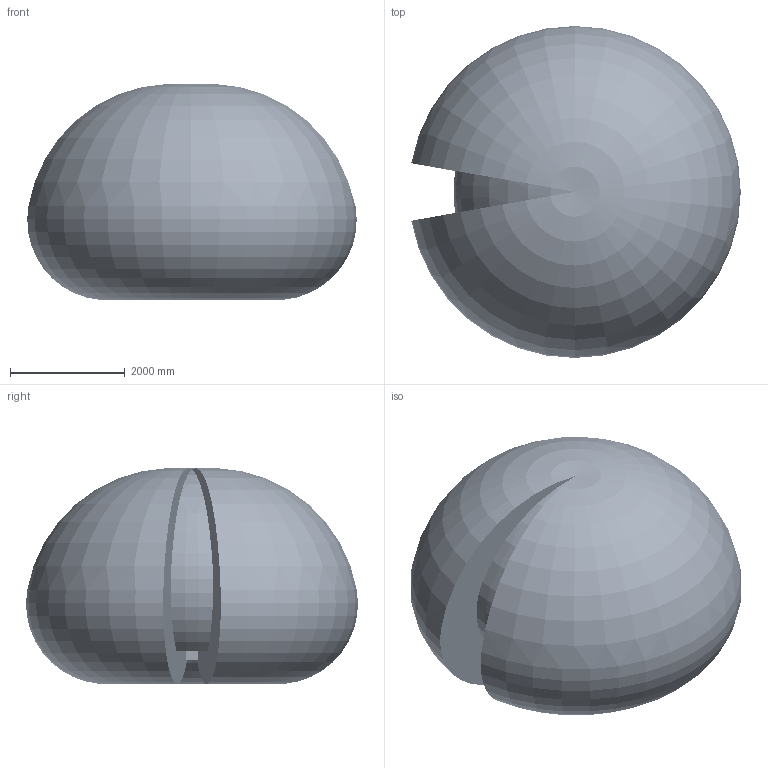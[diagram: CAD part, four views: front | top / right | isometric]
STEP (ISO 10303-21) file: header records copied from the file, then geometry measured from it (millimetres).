
FILE_DESCRIPTION (( 'STEP AP214' ), '1' );
FILE_NAME ('IRB6730-LID-MH_220kg-290_OC_01_ASM_CAD.step', '2026-05-26T09:09:14', ( '' ), ( '' ), 'SwSTEP 2.0', 'SolidWorks 2024', '' );
FILE_SCHEMA (( 'AUTOMOTIVE_DESIGN' ));
Length unit declared in the file: millimetre
Products named in the file (20): IRB6730-LID_220kg-290_OC_00_LINK04_CAD; IRB6730-LID_220kg-290_OC_00_LINK03_CAD; IRB6730-LID_220kg-290_OC_00_LINK01m_CABLE; IRB6730-LID_220kg-290_OC_00_LINK03m_CABLE; IRB6730-LID_220kg-290_OC_00_LINK01_CAD; IRB6730-LID-MH_220kg-290_OC_00_LINK02_CABLE; IRB6730-LID-MH_220kg-290_OC_00_LINK03b_CABLE; IRB6730-LID_220kg-290_OC_00_LINK02m_CABLE; IRB6730-LID_220kg-290_OC_00_Working-space; IRB6730-LID_220kg-290_OC_01_LINK05_CAD; IRB6730-LID_220kg-290_OC_00_ROD_CAD; IRB6730-LID_220kg-290_OC_00_BASE_CAD; IRB6730-LID-MH_220kg-290_OC_00_LINK03a_CABLE; IRB6730-LID_220kg-290_OC_00_LINK04_CABLE; IRB6730-LID_220kg-290_OC_00_LINK05_CABLE; IRB6730-LID-MH_220kg-290_OC_00_LINK01_CABLE; IRB6730-LID_220kg-290_OC_00_LINK06_CABLE; IRB6730-LID-MH_220kg-290_OC_01_ASM_CAD; IRB6730-LID_220kg-290_OC_00_LINK02_CAD; IRB6730-LID_220kg-290_OC_00_CYL_CAD
Assembly tree (19 placements, depth 2):
  IRB6730-LID-MH_220kg-290_OC_01_ASM_CAD
    IRB6730-LID_220kg-290_OC_00_BASE_CAD
    IRB6730-LID_220kg-290_OC_00_CYL_CAD
    IRB6730-LID_220kg-290_OC_00_LINK01_CAD
    IRB6730-LID_220kg-290_OC_00_LINK02_CAD
    IRB6730-LID_220kg-290_OC_00_LINK03_CAD
    IRB6730-LID_220kg-290_OC_00_LINK04_CAD
    IRB6730-LID_220kg-290_OC_01_LINK05_CAD
    IRB6730-LID_220kg-290_OC_00_ROD_CAD
    IRB6730-LID_220kg-290_OC_00_LINK06_CABLE
    IRB6730-LID-MH_220kg-290_OC_00_LINK01_CABLE
    IRB6730-LID-MH_220kg-290_OC_00_LINK02_CABLE
    IRB6730-LID-MH_220kg-290_OC_00_LINK03a_CABLE
    IRB6730-LID-MH_220kg-290_OC_00_LINK03b_CABLE
    IRB6730-LID_220kg-290_OC_00_LINK04_CABLE
    IRB6730-LID_220kg-290_OC_00_LINK05_CABLE
    IRB6730-LID_220kg-290_OC_00_LINK01m_CABLE
    IRB6730-LID_220kg-290_OC_00_LINK02m_CABLE
    IRB6730-LID_220kg-290_OC_00_LINK03m_CABLE
    IRB6730-LID_220kg-290_OC_00_Working-space
Bounding box: 5734.23 x 5778.12 x 3754.85 mm (x, y, z)
Volume: 64498309166.3 mm3; surface area: 123264953.9 mm2
Topology: 20 solids, 46 shells, 10060 faces, 25704 edges, 16324 vertices
Faces by surface type: plane 4682, cylinder 2611, cone 1398, bspline 881, torus 437, sphere 51
Entity records: 553288 total; most frequent: CARTESIAN_POINT 208981, ORIENTED_EDGE 51124, DIRECTION 46079, EDGE_CURVE 25562, AXIS2_PLACEMENT_3D 16895, VERTEX_POINT 16324, LINE 12289, VECTOR 12289
